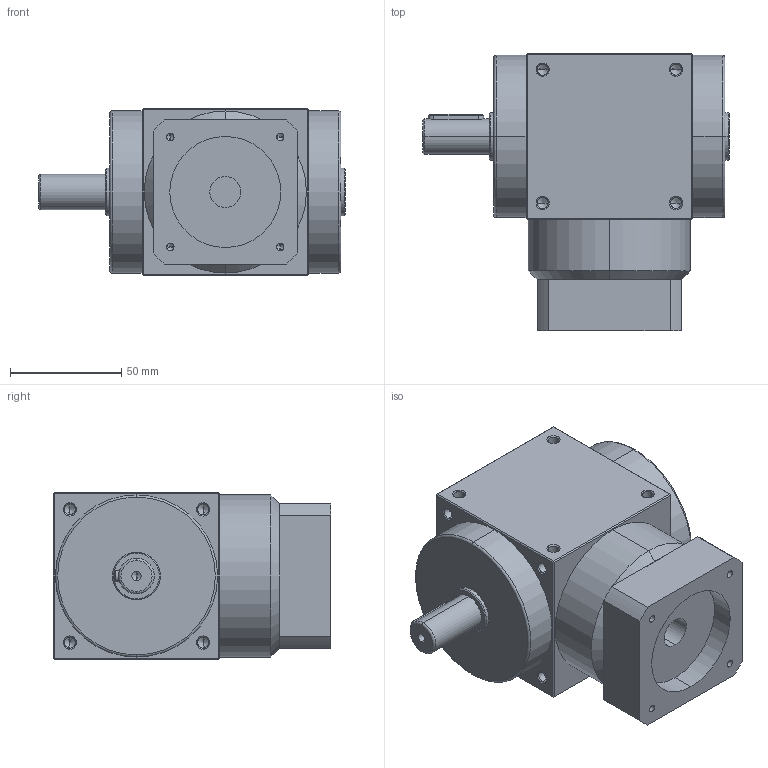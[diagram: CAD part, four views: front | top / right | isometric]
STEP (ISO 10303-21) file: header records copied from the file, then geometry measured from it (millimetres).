
FILE_DESCRIPTION (( 'STEP AP214' ), '1' );
FILE_NAME ('AT075-FL1-001--14-50-70-M4.STEP', '2020-08-21T11:53:32', ( 'User' ), ( 'Far123' ), 'SwSTEP 2.0', 'SolidWorks 2015', '' );
FILE_SCHEMA (( 'AUTOMOTIVE_DESIGN' ));
Length unit declared in the file: millimetre
Products named in the file (1): AT075-FL1-001--14-50-70-M4
Bounding box: 138 x 125 x 75 mm (x, y, z)
Volume: 728763.9 mm3; surface area: 61568.9 mm2
Topology: 1 solids, 1 shells, 263 faces, 652 edges, 351 vertices
Faces by surface type: cylinder 112, cone 98, plane 47, torus 6
Entity records: 8382 total; most frequent: CARTESIAN_POINT 1615, DIRECTION 1220, ORIENTED_EDGE 1204, EDGE_CURVE 602, AXIS2_PLACEMENT_3D 468, VERTEX_POINT 351, EDGE_LOOP 297, LINE 284
